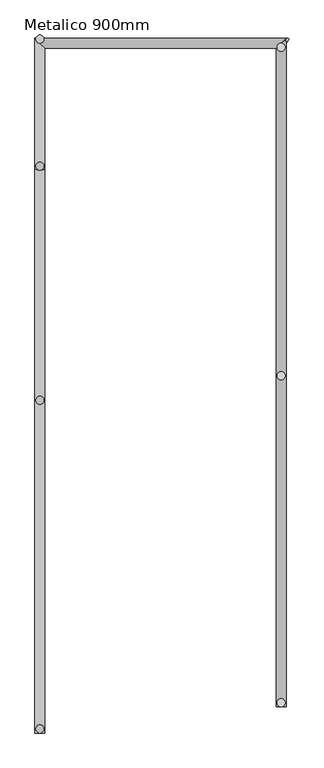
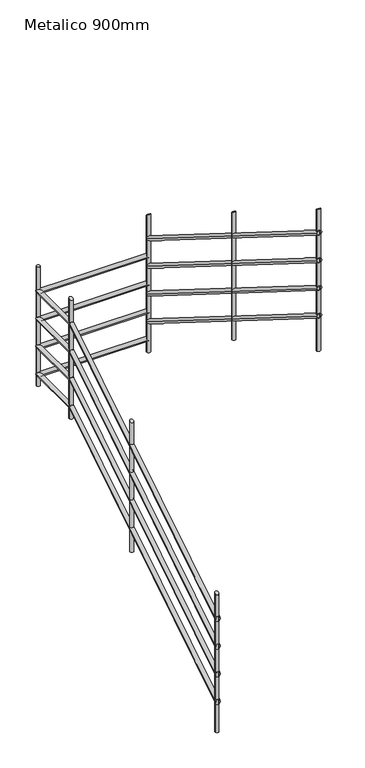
"""IFC4 building model written with IfcOpenShell, lengths in millimetres: railing geometry, Metalico 900mm."""

from ifc_helpers import new_model, si_unit, point, frame, frame_2d, origin, place, context, project, spatial, circle_curve, ellipse_curve, trimmed, segment, composite_curve, outline, extrude, source, transform, mapped, element, save
from ifc_brep_helpers import plane_surface, cylinder_surface, advanced_brep


def metalico_900mm_db347fa3(model_context):
    return source(origin(), model_context, "Body", "SolidModel", [
        advanced_brep(
        [(9989.9958537, 8929.9988127, 6089.1198035), (10019.9958537, 8929.9988127, 6089.1198035), (9989.9958537, 10659.8455144, 7172.3333333), (10019.9958537, 10659.8455144, 7172.3333333), (10765.669886, 11059.9988127, 7172.3333333), (10740.2435505, 11029.9988127, 7172.3333333), (10019.9958537, 11029.9988127, 7172.3333333), (9989.9958537, 11059.9988127, 7172.3333333)],
        [
            (0, 1, ellipse_curve(frame((10004.9958537, 8929.9988127, 6089.1198035), z_axis=(0.0, -1.0, 0.0), x_axis=(0.0, 0.0, -1.0)), 17.6981854, 15.0)),
            (1, 0, ellipse_curve(frame((10004.9958537, 8929.9988127, 6089.1198035), z_axis=(0.0, -1.0, 0.0), x_axis=(0.0, 0.0, -1.0)), 17.6981854, 15.0)),
            (0, 2),
            (2, 3, ellipse_curve(frame((10004.9958537, 10659.8455144, 7172.3333333), z_axis=(0.0, -0.9611307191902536, -0.27609371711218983), x_axis=(0.0, 0.2760937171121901, -0.9611307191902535)), 15.606618, 15.0)),
            (3, 1),
            (3, 2, ellipse_curve(frame((10004.9958537, 10659.8455144, 7172.3333333), z_axis=(0.0, -0.9611307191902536, -0.27609371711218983), x_axis=(0.0, 0.2760937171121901, -0.9611307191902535)), 15.606618, 15.0)),
            (4, 5, ellipse_curve(frame((10752.9567183, 11044.9988127, 7172.3333333), z_axis=(0.7071067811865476, -0.5993044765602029, 0.3752787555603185), x_axis=(-0.7071067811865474, -0.5993044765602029, 0.37527875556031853)), 21.2132034, 15.0)),
            (5, 4, ellipse_curve(frame((10752.9567183, 11044.9988127, 7172.3333333), z_axis=(0.7071067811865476, -0.5993044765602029, 0.3752787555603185), x_axis=(-0.7071067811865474, -0.5993044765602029, 0.37527875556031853)), 21.2132034, 15.0)),
            (6, 7, ellipse_curve(frame((10004.9958537, 11044.9988127, 7172.3333333), z_axis=(0.7071067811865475, 0.7071067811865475, 0.0), x_axis=(-0.7071067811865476, 0.7071067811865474, 0.0)), 21.2132034, 15.0)),
            (7, 4),
            (5, 6),
            (7, 6, ellipse_curve(frame((10004.9958537, 11044.9988127, 7172.3333333), z_axis=(0.7071067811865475, 0.7071067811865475, 0.0), x_axis=(-0.7071067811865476, 0.7071067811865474, 0.0)), 21.2132034, 15.0)),
            (2, 7),
            (6, 3),
        ],
        [
            plane_surface(frame((10004.9958537, 8929.9988127, 6106.8179888), z_axis=(0.0, -1.0, 0.0), x_axis=(0.0, 0.0, 1.0))),
            cylinder_surface(frame((10004.9958537, 8937.9596773, 6094.104821), z_axis=(0.0, -0.8475445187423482, -0.5307243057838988), x_axis=(1.0, 0.0, 0.0)), 15.0),
            plane_surface(frame((10744.9958537, 11044.9988127, 7187.3333333), z_axis=(0.7071067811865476, -0.5993044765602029, 0.3752787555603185), x_axis=(0.7071067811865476, 0.5993044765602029, -0.37527875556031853))),
            cylinder_surface(frame((10004.9958537, 11044.9988127, 7172.3333333), z_axis=(-1.0, 0.0, 0.0), x_axis=(0.0, -1.0, 0.0)), 15.0),
            cylinder_surface(frame((10004.9958537, 10655.5366253, 7172.3333333), z_axis=(0.0, -1.0, 0.0), x_axis=(1.0, 0.0, 0.0)), 15.0),
        ],
        [
            (0, [[1, 2]]),
            (1, [[-1, 3, 4, 5]]),
            (1, [[-2, -5, 6, -3]]),
            (2, [[7, 8]]),
            (3, [[9, 10, -8, 11]]),
            (3, [[12, -11, -7, -10]]),
            (4, [[-4, 13, -9, 14]]),
            (4, [[-6, -14, -12, -13]]),
        ],
    ),
        advanced_brep(
        [(10759.9958537, 11049.7511159, 7295.0283486), (10729.9958537, 11024.3247804, 7310.9500778), (10759.9958537, 9009.9988127, 8572.3018146), (10729.9958537, 9009.9988127, 8572.3018146)],
        [
            (0, 1, ellipse_curve(frame((10744.9958537, 11037.0379481, 7302.9892132), z_axis=(-0.7071067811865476, 0.5993044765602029, -0.3752787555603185), x_axis=(0.7071067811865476, 0.5993044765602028, -0.3752787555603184)), 21.2132034, 15.0)),
            (1, 0, ellipse_curve(frame((10744.9958537, 11037.0379481, 7302.9892132), z_axis=(-0.7071067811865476, 0.5993044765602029, -0.3752787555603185), x_axis=(0.7071067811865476, 0.5993044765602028, -0.3752787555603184)), 21.2132034, 15.0)),
            (2, 3, ellipse_curve(frame((10744.9958537, 9009.9988127, 8572.3018146), z_axis=(0.0, -1.0, 0.0), x_axis=(0.0, 0.0, -1.0)), 17.6981854, 15.0)),
            (3, 2, ellipse_curve(frame((10744.9958537, 9009.9988127, 8572.3018146), z_axis=(0.0, -1.0, 0.0), x_axis=(0.0, 0.0, -1.0)), 17.6981854, 15.0)),
            (0, 2),
            (3, 1),
        ],
        [
            plane_surface(frame((10744.9958537, 11044.9988127, 7315.702381), z_axis=(-0.7071067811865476, 0.5993044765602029, -0.3752787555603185), x_axis=(0.7071067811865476, 0.5993044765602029, -0.37527875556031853))),
            plane_surface(frame((10744.9958537, 9009.9988127, 8590.0), z_axis=(0.0, -1.0, 0.0), x_axis=(0.0, 0.0, -1.0))),
            cylinder_surface(frame((10744.9958537, 11037.0379481, 7302.9892132), z_axis=(0.0, 0.8475445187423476, -0.5307243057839), x_axis=(-1.0, 0.0, 0.0)), 15.0),
        ],
        [
            (0, [[1, 2]]),
            (1, [[3, 4]]),
            (2, [[-1, 5, -4, 6]]),
            (2, [[-2, -6, -3, -5]]),
        ],
    ),
        advanced_brep(
        [(9989.9958537, 8929.9988127, 5889.1198035), (10019.9958537, 8929.9988127, 5889.1198035), (9989.9958537, 10659.8455144, 6972.3333333), (10019.9958537, 10659.8455144, 6972.3333333), (10765.669886, 11059.9988127, 6972.3333333), (10740.2435505, 11029.9988127, 6972.3333333), (10019.9958537, 11029.9988127, 6972.3333333), (9989.9958537, 11059.9988127, 6972.3333333)],
        [
            (0, 1, ellipse_curve(frame((10004.9958537, 8929.9988127, 5889.1198035), z_axis=(0.0, -1.0, 0.0), x_axis=(0.0, 0.0, -1.0)), 17.6981854, 15.0)),
            (1, 0, ellipse_curve(frame((10004.9958537, 8929.9988127, 5889.1198035), z_axis=(0.0, -1.0, 0.0), x_axis=(0.0, 0.0, -1.0)), 17.6981854, 15.0)),
            (0, 2),
            (2, 3, ellipse_curve(frame((10004.9958537, 10659.8455144, 6972.3333333), z_axis=(0.0, -0.9611307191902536, -0.27609371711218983), x_axis=(0.0, 0.2760937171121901, -0.9611307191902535)), 15.606618, 15.0)),
            (3, 1),
            (3, 2, ellipse_curve(frame((10004.9958537, 10659.8455144, 6972.3333333), z_axis=(0.0, -0.9611307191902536, -0.27609371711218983), x_axis=(0.0, 0.2760937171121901, -0.9611307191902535)), 15.606618, 15.0)),
            (4, 5, ellipse_curve(frame((10752.9567183, 11044.9988127, 6972.3333333), z_axis=(0.7071067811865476, -0.5993044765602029, 0.3752787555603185), x_axis=(-0.7071067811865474, -0.5993044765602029, 0.37527875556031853)), 21.2132034, 15.0)),
            (5, 4, ellipse_curve(frame((10752.9567183, 11044.9988127, 6972.3333333), z_axis=(0.7071067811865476, -0.5993044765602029, 0.3752787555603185), x_axis=(-0.7071067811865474, -0.5993044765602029, 0.37527875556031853)), 21.2132034, 15.0)),
            (6, 7, ellipse_curve(frame((10004.9958537, 11044.9988127, 6972.3333333), z_axis=(0.7071067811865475, 0.7071067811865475, 0.0), x_axis=(-0.7071067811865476, 0.7071067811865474, 0.0)), 21.2132034, 15.0)),
            (7, 4),
            (5, 6),
            (7, 6, ellipse_curve(frame((10004.9958537, 11044.9988127, 6972.3333333), z_axis=(0.7071067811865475, 0.7071067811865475, 0.0), x_axis=(-0.7071067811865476, 0.7071067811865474, 0.0)), 21.2132034, 15.0)),
            (2, 7),
            (6, 3),
        ],
        [
            plane_surface(frame((10004.9958537, 8929.9988127, 5906.8179888), z_axis=(0.0, -1.0, 0.0), x_axis=(0.0, 0.0, 1.0))),
            cylinder_surface(frame((10004.9958537, 8937.9596773, 5894.104821), z_axis=(0.0, -0.8475445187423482, -0.5307243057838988), x_axis=(1.0, 0.0, 0.0)), 15.0),
            plane_surface(frame((10744.9958537, 11044.9988127, 6987.3333333), z_axis=(0.7071067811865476, -0.5993044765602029, 0.3752787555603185), x_axis=(0.7071067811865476, 0.5993044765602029, -0.37527875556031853))),
            cylinder_surface(frame((10004.9958537, 11044.9988127, 6972.3333333), z_axis=(-1.0, 0.0, 0.0), x_axis=(0.0, -1.0, 0.0)), 15.0),
            cylinder_surface(frame((10004.9958537, 10655.5366253, 6972.3333333), z_axis=(0.0, -1.0, 0.0), x_axis=(1.0, 0.0, 0.0)), 15.0),
        ],
        [
            (0, [[1, 2]]),
            (1, [[-1, 3, 4, 5]]),
            (1, [[-2, -5, 6, -3]]),
            (2, [[7, 8]]),
            (3, [[9, 10, -8, 11]]),
            (3, [[12, -11, -7, -10]]),
            (4, [[-4, 13, -9, 14]]),
            (4, [[-6, -14, -12, -13]]),
        ],
    ),
        advanced_brep(
        [(10759.9958537, 11049.7511159, 7095.0283486), (10729.9958537, 11024.3247804, 7110.9500778), (10759.9958537, 9009.9988127, 8372.3018146), (10729.9958537, 9009.9988127, 8372.3018146)],
        [
            (0, 1, ellipse_curve(frame((10744.9958537, 11037.0379481, 7102.9892132), z_axis=(-0.7071067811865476, 0.5993044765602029, -0.3752787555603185), x_axis=(0.7071067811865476, 0.5993044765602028, -0.3752787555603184)), 21.2132034, 15.0)),
            (1, 0, ellipse_curve(frame((10744.9958537, 11037.0379481, 7102.9892132), z_axis=(-0.7071067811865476, 0.5993044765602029, -0.3752787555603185), x_axis=(0.7071067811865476, 0.5993044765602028, -0.3752787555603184)), 21.2132034, 15.0)),
            (2, 3, ellipse_curve(frame((10744.9958537, 9009.9988127, 8372.3018146), z_axis=(0.0, -1.0, 0.0), x_axis=(0.0, 0.0, -1.0)), 17.6981854, 15.0)),
            (3, 2, ellipse_curve(frame((10744.9958537, 9009.9988127, 8372.3018146), z_axis=(0.0, -1.0, 0.0), x_axis=(0.0, 0.0, -1.0)), 17.6981854, 15.0)),
            (0, 2),
            (3, 1),
        ],
        [
            plane_surface(frame((10744.9958537, 11044.9988127, 7115.702381), z_axis=(-0.7071067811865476, 0.5993044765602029, -0.3752787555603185), x_axis=(0.7071067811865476, 0.5993044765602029, -0.37527875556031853))),
            plane_surface(frame((10744.9958537, 9009.9988127, 8390.0), z_axis=(0.0, -1.0, 0.0), x_axis=(0.0, 0.0, -1.0))),
            cylinder_surface(frame((10744.9958537, 11037.0379481, 7102.9892132), z_axis=(0.0, 0.8475445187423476, -0.5307243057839), x_axis=(-1.0, 0.0, 0.0)), 15.0),
        ],
        [
            (0, [[1, 2]]),
            (1, [[3, 4]]),
            (2, [[-1, 5, -4, 6]]),
            (2, [[-2, -6, -3, -5]]),
        ],
    ),
        advanced_brep(
        [(9989.9958537, 8929.9988127, 5689.1198035), (10019.9958537, 8929.9988127, 5689.1198035), (9989.9958537, 10659.8455144, 6772.3333333), (10019.9958537, 10659.8455144, 6772.3333333), (10765.669886, 11059.9988127, 6772.3333333), (10740.2435505, 11029.9988127, 6772.3333333), (10019.9958537, 11029.9988127, 6772.3333333), (9989.9958537, 11059.9988127, 6772.3333333)],
        [
            (0, 1, ellipse_curve(frame((10004.9958537, 8929.9988127, 5689.1198035), z_axis=(0.0, -1.0, 0.0), x_axis=(0.0, 0.0, -1.0)), 17.6981854, 15.0)),
            (1, 0, ellipse_curve(frame((10004.9958537, 8929.9988127, 5689.1198035), z_axis=(0.0, -1.0, 0.0), x_axis=(0.0, 0.0, -1.0)), 17.6981854, 15.0)),
            (0, 2),
            (2, 3, ellipse_curve(frame((10004.9958537, 10659.8455144, 6772.3333333), z_axis=(0.0, -0.9611307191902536, -0.27609371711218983), x_axis=(0.0, 0.2760937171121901, -0.9611307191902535)), 15.606618, 15.0)),
            (3, 1),
            (3, 2, ellipse_curve(frame((10004.9958537, 10659.8455144, 6772.3333333), z_axis=(0.0, -0.9611307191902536, -0.27609371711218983), x_axis=(0.0, 0.2760937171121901, -0.9611307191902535)), 15.606618, 15.0)),
            (4, 5, ellipse_curve(frame((10752.9567183, 11044.9988127, 6772.3333333), z_axis=(0.7071067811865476, -0.5993044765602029, 0.3752787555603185), x_axis=(-0.7071067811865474, -0.5993044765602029, 0.37527875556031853)), 21.2132034, 15.0)),
            (5, 4, ellipse_curve(frame((10752.9567183, 11044.9988127, 6772.3333333), z_axis=(0.7071067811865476, -0.5993044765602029, 0.3752787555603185), x_axis=(-0.7071067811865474, -0.5993044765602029, 0.37527875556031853)), 21.2132034, 15.0)),
            (6, 7, ellipse_curve(frame((10004.9958537, 11044.9988127, 6772.3333333), z_axis=(0.7071067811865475, 0.7071067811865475, 0.0), x_axis=(-0.7071067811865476, 0.7071067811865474, 0.0)), 21.2132034, 15.0)),
            (7, 4),
            (5, 6),
            (7, 6, ellipse_curve(frame((10004.9958537, 11044.9988127, 6772.3333333), z_axis=(0.7071067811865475, 0.7071067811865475, 0.0), x_axis=(-0.7071067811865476, 0.7071067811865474, 0.0)), 21.2132034, 15.0)),
            (2, 7),
            (6, 3),
        ],
        [
            plane_surface(frame((10004.9958537, 8929.9988127, 5706.8179888), z_axis=(0.0, -1.0, 0.0), x_axis=(0.0, 0.0, 1.0))),
            cylinder_surface(frame((10004.9958537, 8937.9596773, 5694.104821), z_axis=(0.0, -0.8475445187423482, -0.5307243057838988), x_axis=(1.0, 0.0, 0.0)), 15.0),
            plane_surface(frame((10744.9958537, 11044.9988127, 6787.3333333), z_axis=(0.7071067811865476, -0.5993044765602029, 0.3752787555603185), x_axis=(0.7071067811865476, 0.5993044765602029, -0.37527875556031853))),
            cylinder_surface(frame((10004.9958537, 11044.9988127, 6772.3333333), z_axis=(-1.0, 0.0, 0.0), x_axis=(0.0, -1.0, 0.0)), 15.0),
            cylinder_surface(frame((10004.9958537, 10655.5366253, 6772.3333333), z_axis=(0.0, -1.0, 0.0), x_axis=(1.0, 0.0, 0.0)), 15.0),
        ],
        [
            (0, [[1, 2]]),
            (1, [[-1, 3, 4, 5]]),
            (1, [[-2, -5, 6, -3]]),
            (2, [[7, 8]]),
            (3, [[9, 10, -8, 11]]),
            (3, [[12, -11, -7, -10]]),
            (4, [[-4, 13, -9, 14]]),
            (4, [[-6, -14, -12, -13]]),
        ],
    ),
        advanced_brep(
        [(10759.9958537, 11049.7511159, 6895.0283486), (10729.9958537, 11024.3247804, 6910.9500778), (10759.9958537, 9009.9988127, 8172.3018146), (10729.9958537, 9009.9988127, 8172.3018146)],
        [
            (0, 1, ellipse_curve(frame((10744.9958537, 11037.0379481, 6902.9892132), z_axis=(-0.7071067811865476, 0.5993044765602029, -0.3752787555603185), x_axis=(0.7071067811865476, 0.5993044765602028, -0.3752787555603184)), 21.2132034, 15.0)),
            (1, 0, ellipse_curve(frame((10744.9958537, 11037.0379481, 6902.9892132), z_axis=(-0.7071067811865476, 0.5993044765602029, -0.3752787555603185), x_axis=(0.7071067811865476, 0.5993044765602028, -0.3752787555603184)), 21.2132034, 15.0)),
            (2, 3, ellipse_curve(frame((10744.9958537, 9009.9988127, 8172.3018146), z_axis=(0.0, -1.0, 0.0), x_axis=(0.0, 0.0, -1.0)), 17.6981854, 15.0)),
            (3, 2, ellipse_curve(frame((10744.9958537, 9009.9988127, 8172.3018146), z_axis=(0.0, -1.0, 0.0), x_axis=(0.0, 0.0, -1.0)), 17.6981854, 15.0)),
            (0, 2),
            (3, 1),
        ],
        [
            plane_surface(frame((10744.9958537, 11044.9988127, 6915.702381), z_axis=(-0.7071067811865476, 0.5993044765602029, -0.3752787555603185), x_axis=(0.7071067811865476, 0.5993044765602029, -0.37527875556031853))),
            plane_surface(frame((10744.9958537, 9009.9988127, 8190.0), z_axis=(0.0, -1.0, 0.0), x_axis=(0.0, 0.0, -1.0))),
            cylinder_surface(frame((10744.9958537, 11037.0379481, 6902.9892132), z_axis=(0.0, 0.8475445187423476, -0.5307243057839), x_axis=(-1.0, 0.0, 0.0)), 15.0),
        ],
        [
            (0, [[1, 2]]),
            (1, [[3, 4]]),
            (2, [[-1, 5, -4, 6]]),
            (2, [[-2, -6, -3, -5]]),
        ],
    ),
        advanced_brep(
        [(9989.9958537, 8929.9988127, 5489.1198035), (10019.9958537, 8929.9988127, 5489.1198035), (9989.9958537, 10659.8455144, 6572.3333333), (10019.9958537, 10659.8455144, 6572.3333333), (10765.669886, 11059.9988127, 6572.3333333), (10740.2435505, 11029.9988127, 6572.3333333), (10019.9958537, 11029.9988127, 6572.3333333), (9989.9958537, 11059.9988127, 6572.3333333)],
        [
            (0, 1, ellipse_curve(frame((10004.9958537, 8929.9988127, 5489.1198035), z_axis=(0.0, -1.0, 0.0), x_axis=(0.0, 0.0, -1.0)), 17.6981854, 15.0)),
            (1, 0, ellipse_curve(frame((10004.9958537, 8929.9988127, 5489.1198035), z_axis=(0.0, -1.0, 0.0), x_axis=(0.0, 0.0, -1.0)), 17.6981854, 15.0)),
            (0, 2),
            (2, 3, ellipse_curve(frame((10004.9958537, 10659.8455144, 6572.3333333), z_axis=(0.0, -0.9611307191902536, -0.27609371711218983), x_axis=(0.0, 0.2760937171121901, -0.9611307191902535)), 15.606618, 15.0)),
            (3, 1),
            (3, 2, ellipse_curve(frame((10004.9958537, 10659.8455144, 6572.3333333), z_axis=(0.0, -0.9611307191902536, -0.27609371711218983), x_axis=(0.0, 0.2760937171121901, -0.9611307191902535)), 15.606618, 15.0)),
            (4, 5, ellipse_curve(frame((10752.9567183, 11044.9988127, 6572.3333333), z_axis=(0.7071067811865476, -0.5993044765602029, 0.3752787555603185), x_axis=(-0.7071067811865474, -0.5993044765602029, 0.37527875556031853)), 21.2132034, 15.0)),
            (5, 4, ellipse_curve(frame((10752.9567183, 11044.9988127, 6572.3333333), z_axis=(0.7071067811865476, -0.5993044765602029, 0.3752787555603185), x_axis=(-0.7071067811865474, -0.5993044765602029, 0.37527875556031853)), 21.2132034, 15.0)),
            (6, 7, ellipse_curve(frame((10004.9958537, 11044.9988127, 6572.3333333), z_axis=(0.7071067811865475, 0.7071067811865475, 0.0), x_axis=(-0.7071067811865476, 0.7071067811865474, 0.0)), 21.2132034, 15.0)),
            (7, 4),
            (5, 6),
            (7, 6, ellipse_curve(frame((10004.9958537, 11044.9988127, 6572.3333333), z_axis=(0.7071067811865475, 0.7071067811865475, 0.0), x_axis=(-0.7071067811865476, 0.7071067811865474, 0.0)), 21.2132034, 15.0)),
            (2, 7),
            (6, 3),
        ],
        [
            plane_surface(frame((10004.9958537, 8929.9988127, 5506.8179888), z_axis=(0.0, -1.0, 0.0), x_axis=(0.0, 0.0, 1.0))),
            cylinder_surface(frame((10004.9958537, 8937.9596773, 5494.104821), z_axis=(0.0, -0.8475445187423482, -0.5307243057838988), x_axis=(1.0, 0.0, 0.0)), 15.0),
            plane_surface(frame((10744.9958537, 11044.9988127, 6587.3333333), z_axis=(0.7071067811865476, -0.5993044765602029, 0.3752787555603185), x_axis=(0.7071067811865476, 0.5993044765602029, -0.37527875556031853))),
            cylinder_surface(frame((10004.9958537, 11044.9988127, 6572.3333333), z_axis=(-1.0, 0.0, 0.0), x_axis=(0.0, -1.0, 0.0)), 15.0),
            cylinder_surface(frame((10004.9958537, 10655.5366253, 6572.3333333), z_axis=(0.0, -1.0, 0.0), x_axis=(1.0, 0.0, 0.0)), 15.0),
        ],
        [
            (0, [[1, 2]]),
            (1, [[-1, 3, 4, 5]]),
            (1, [[-2, -5, 6, -3]]),
            (2, [[7, 8]]),
            (3, [[9, 10, -8, 11]]),
            (3, [[12, -11, -7, -10]]),
            (4, [[-4, 13, -9, 14]]),
            (4, [[-6, -14, -12, -13]]),
        ],
    ),
        advanced_brep(
        [(10759.9958537, 11049.7511159, 6695.0283486), (10729.9958537, 11024.3247804, 6710.9500778), (10759.9958537, 9009.9988127, 7972.3018146), (10729.9958537, 9009.9988127, 7972.3018146)],
        [
            (0, 1, ellipse_curve(frame((10744.9958537, 11037.0379481, 6702.9892132), z_axis=(-0.7071067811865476, 0.5993044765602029, -0.3752787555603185), x_axis=(0.7071067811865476, 0.5993044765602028, -0.3752787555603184)), 21.2132034, 15.0)),
            (1, 0, ellipse_curve(frame((10744.9958537, 11037.0379481, 6702.9892132), z_axis=(-0.7071067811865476, 0.5993044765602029, -0.3752787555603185), x_axis=(0.7071067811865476, 0.5993044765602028, -0.3752787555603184)), 21.2132034, 15.0)),
            (2, 3, ellipse_curve(frame((10744.9958537, 9009.9988127, 7972.3018146), z_axis=(0.0, -1.0, 0.0), x_axis=(0.0, 0.0, -1.0)), 17.6981854, 15.0)),
            (3, 2, ellipse_curve(frame((10744.9958537, 9009.9988127, 7972.3018146), z_axis=(0.0, -1.0, 0.0), x_axis=(0.0, 0.0, -1.0)), 17.6981854, 15.0)),
            (0, 2),
            (3, 1),
        ],
        [
            plane_surface(frame((10744.9958537, 11044.9988127, 6715.702381), z_axis=(-0.7071067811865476, 0.5993044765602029, -0.3752787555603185), x_axis=(0.7071067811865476, 0.5993044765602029, -0.37527875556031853))),
            plane_surface(frame((10744.9958537, 9009.9988127, 7990.0), z_axis=(0.0, -1.0, 0.0), x_axis=(0.0, 0.0, -1.0))),
            cylinder_surface(frame((10744.9958537, 11037.0379481, 6702.9892132), z_axis=(0.0, 0.8475445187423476, -0.5307243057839), x_axis=(-1.0, 0.0, 0.0)), 15.0),
        ],
        [
            (0, [[1, 2]]),
            (1, [[3, 4]]),
            (2, [[-1, 5, -4, 6]]),
            (2, [[-2, -6, -3, -5]]),
        ],
    ),
        advanced_brep(
        [(10732.4958537, 10024.9988127, 8107.2215057), (10732.4958537, 10024.9988127, 7188.6666667), (10757.4958537, 10024.9988127, 7188.6666667), (10757.4958537, 10024.9988127, 8107.2215057)],
        [
            (0, 1),
            (1, 2, circle_curve(frame((10744.9958537, 10024.9988127, 7188.6666667), z_axis=(0.0, 0.0, 1.0), x_axis=(1.0, 0.0, 0.0)), 12.5)),
            (2, 3),
            (3, 0, ellipse_curve(frame((10744.9958537, 10024.9988127, 8107.2215057), z_axis=(0.0, -0.5307243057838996, -0.8475445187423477), x_axis=(0.0, -0.8475445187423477, 0.5307243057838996)), 14.7484878, 12.5)),
            (0, 3, ellipse_curve(frame((10744.9958537, 10024.9988127, 8107.2215057), z_axis=(0.0, -0.5307243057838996, -0.8475445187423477), x_axis=(0.0, -0.8475445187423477, 0.5307243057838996)), 14.7484878, 12.5)),
            (2, 1, circle_curve(frame((10744.9958537, 10024.9988127, 7188.6666667), z_axis=(0.0, 0.0, 1.0), x_axis=(1.0, 0.0, 0.0)), 12.5)),
        ],
        [
            cylinder_surface(frame((10744.9958537, 10024.9988127, 7088.6666667), z_axis=(0.0, 0.0, 1.0), x_axis=(1.0, 0.0, 0.0)), 12.5),
            plane_surface(frame((10769.9958537, 9999.9988127, 8122.8762676), z_axis=(0.0, 0.5307243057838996, 0.8475445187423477), x_axis=(-1.0, 0.0, 0.0))),
            plane_surface(frame((10769.9958537, 10049.9988127, 7188.6666667), z_axis=(0.0, 0.0, -1.0), x_axis=(-1.0, 0.0, 0.0))),
        ],
        [
            (0, [[1, 2, 3, 4]]),
            (0, [[-1, 5, -3, 6]]),
            (1, [[-4, -5]]),
            (2, [[-2, -6]]),
        ],
    ),
        advanced_brep(
        [(10732.4958537, 10024.9988127, 8107.2215057), (10732.4958537, 10024.9988127, 7188.6666667), (10757.4958537, 10024.9988127, 7188.6666667), (10757.4958537, 10024.9988127, 8107.2215057)],
        [
            (0, 1),
            (1, 2, circle_curve(frame((10744.9958537, 10024.9988127, 7188.6666667), z_axis=(0.0, 0.0, 1.0), x_axis=(1.0, 0.0, 0.0)), 12.5)),
            (2, 3),
            (3, 0, ellipse_curve(frame((10744.9958537, 10024.9988127, 8107.2215057), z_axis=(0.0, -0.5307243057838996, -0.8475445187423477), x_axis=(0.0, -0.8475445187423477, 0.5307243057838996)), 14.7484878, 12.5)),
            (0, 3, ellipse_curve(frame((10744.9958537, 10024.9988127, 8107.2215057), z_axis=(0.0, -0.5307243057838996, -0.8475445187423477), x_axis=(0.0, -0.8475445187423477, 0.5307243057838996)), 14.7484878, 12.5)),
            (2, 1, circle_curve(frame((10744.9958537, 10024.9988127, 7188.6666667), z_axis=(0.0, 0.0, 1.0), x_axis=(1.0, 0.0, 0.0)), 12.5)),
        ],
        [
            cylinder_surface(frame((10744.9958537, 10024.9988127, 7088.6666667), z_axis=(0.0, 0.0, 1.0), x_axis=(1.0, 0.0, 0.0)), 12.5),
            plane_surface(frame((10769.9958537, 9999.9988127, 8122.8762676), z_axis=(0.0, 0.5307243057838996, 0.8475445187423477), x_axis=(-1.0, 0.0, 0.0))),
            plane_surface(frame((10769.9958537, 10049.9988127, 7188.6666667), z_axis=(0.0, 0.0, -1.0), x_axis=(-1.0, 0.0, 0.0))),
        ],
        [
            (0, [[1, 2, 3, 4]]),
            (0, [[-1, 5, -3, 6]]),
            (1, [[-4, -5]]),
            (2, [[-2, -6]]),
        ],
    ),
        advanced_brep(
        [(10017.4958537, 9949.9988127, 6898.3371136), (10017.4958537, 9949.9988127, 5961.3333333), (9992.4958537, 9949.9988127, 5961.3333333), (9992.4958537, 9949.9988127, 6898.3371136)],
        [
            (0, 1),
            (1, 2, circle_curve(frame((10004.9958537, 9949.9988127, 5961.3333333), z_axis=(0.0, 0.0, 1.0), x_axis=(-1.0, 0.0, 0.0)), 12.5)),
            (2, 3),
            (3, 0, ellipse_curve(frame((10004.9958537, 9949.9988127, 6898.3371136), z_axis=(0.0, 0.530724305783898, -0.8475445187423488), x_axis=(0.0, 0.8475445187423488, 0.5307243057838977)), 14.7484878, 12.5)),
            (0, 3, ellipse_curve(frame((10004.9958537, 9949.9988127, 6898.3371136), z_axis=(0.0, 0.530724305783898, -0.8475445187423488), x_axis=(0.0, 0.8475445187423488, 0.5307243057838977)), 14.7484878, 12.5)),
            (2, 1, circle_curve(frame((10004.9958537, 9949.9988127, 5961.3333333), z_axis=(0.0, 0.0, 1.0), x_axis=(-1.0, 0.0, 0.0)), 12.5)),
        ],
        [
            cylinder_surface(frame((10004.9958537, 9949.9988127, 5861.3333333), z_axis=(0.0, 0.0, 1.0), x_axis=(-1.0, 0.0, 0.0)), 12.5),
            plane_surface(frame((9979.9958537, 9974.9988127, 6913.9918755), z_axis=(0.0, -0.530724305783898, 0.8475445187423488), x_axis=(1.0, 0.0, 0.0))),
            plane_surface(frame((9979.9958537, 9924.9988127, 5961.3333333), z_axis=(0.0, 0.0, -1.0), x_axis=(1.0, 0.0, 0.0))),
        ],
        [
            (0, [[1, 2, 3, 4]]),
            (0, [[-1, 5, -3, 6]]),
            (1, [[-4, -5]]),
            (2, [[-2, -6]]),
        ],
    ),
        advanced_brep(
        [(10017.4958537, 9949.9988127, 6898.3371136), (10017.4958537, 9949.9988127, 5961.3333333), (9992.4958537, 9949.9988127, 5961.3333333), (9992.4958537, 9949.9988127, 6898.3371136)],
        [
            (0, 1),
            (1, 2, circle_curve(frame((10004.9958537, 9949.9988127, 5961.3333333), z_axis=(0.0, 0.0, 1.0), x_axis=(-1.0, 0.0, 0.0)), 12.5)),
            (2, 3),
            (3, 0, ellipse_curve(frame((10004.9958537, 9949.9988127, 6898.3371136), z_axis=(0.0, 0.530724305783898, -0.8475445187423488), x_axis=(0.0, 0.8475445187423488, 0.5307243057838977)), 14.7484878, 12.5)),
            (0, 3, ellipse_curve(frame((10004.9958537, 9949.9988127, 6898.3371136), z_axis=(0.0, 0.530724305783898, -0.8475445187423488), x_axis=(0.0, 0.8475445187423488, 0.5307243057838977)), 14.7484878, 12.5)),
            (2, 1, circle_curve(frame((10004.9958537, 9949.9988127, 5961.3333333), z_axis=(0.0, 0.0, 1.0), x_axis=(-1.0, 0.0, 0.0)), 12.5)),
        ],
        [
            cylinder_surface(frame((10004.9958537, 9949.9988127, 5861.3333333), z_axis=(0.0, 0.0, 1.0), x_axis=(-1.0, 0.0, 0.0)), 12.5),
            plane_surface(frame((9979.9958537, 9974.9988127, 6913.9918755), z_axis=(0.0, -0.530724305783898, 0.8475445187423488), x_axis=(1.0, 0.0, 0.0))),
            plane_surface(frame((9979.9958537, 9924.9988127, 5961.3333333), z_axis=(0.0, 0.0, -1.0), x_axis=(1.0, 0.0, 0.0))),
        ],
        [
            (0, [[1, 2, 3, 4]]),
            (0, [[-1, 5, -3, 6]]),
            (1, [[-4, -5]]),
            (2, [[-2, -6]]),
        ],
    ),
        advanced_brep(
        [(10732.4958537, 11032.4988127, 7476.3346009), (10732.4958537, 11032.4988127, 6487.3333333), (10757.4958537, 11032.4988127, 6487.3333333), (10757.4958537, 11032.4988127, 7476.3346009)],
        [
            (0, 1),
            (1, 2, circle_curve(frame((10744.9958537, 11032.4988127, 6487.3333333), z_axis=(0.0, 0.0, 1.0), x_axis=(1.0, 0.0, 0.0)), 12.5)),
            (2, 3),
            (3, 0, ellipse_curve(frame((10744.9958537, 11032.4988127, 7476.3346009), z_axis=(0.0, -0.530724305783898, -0.8475445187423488), x_axis=(0.0, -0.8475445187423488, 0.5307243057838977)), 14.7484878, 12.5)),
            (0, 3, ellipse_curve(frame((10744.9958537, 11032.4988127, 7476.3346009), z_axis=(0.0, -0.530724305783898, -0.8475445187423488), x_axis=(0.0, -0.8475445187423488, 0.5307243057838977)), 14.7484878, 12.5)),
            (2, 1, circle_curve(frame((10744.9958537, 11032.4988127, 6487.3333333), z_axis=(0.0, 0.0, 1.0), x_axis=(1.0, 0.0, 0.0)), 12.5)),
        ],
        [
            cylinder_surface(frame((10744.9958537, 11032.4988127, 6387.3333333), z_axis=(0.0, 0.0, 1.0), x_axis=(1.0, 0.0, 0.0)), 12.5),
            plane_surface(frame((10769.9958537, 11007.4988127, 7491.9893628), z_axis=(0.0, 0.530724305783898, 0.8475445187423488), x_axis=(-1.0, 0.0, 0.0))),
            plane_surface(frame((10769.9958537, 11057.4988127, 6487.3333333), z_axis=(0.0, 0.0, -1.0), x_axis=(-1.0, 0.0, 0.0))),
        ],
        [
            (0, [[1, 2, 3, 4]]),
            (0, [[-1, 5, -3, 6]]),
            (1, [[-4, -5]]),
            (2, [[-2, -6]]),
        ],
    ),
        extrude(outline(composite_curve([segment(trimmed(circle_curve(frame_2d((10004.9958537, 11057.4988127)), 12.5), [point((9992.4958537, 11057.4988127))], [point((10017.4958537, 11057.4988127))], False, "CARTESIAN"), True, "CONTINUOUS"), segment(trimmed(circle_curve(frame_2d((10004.9958537, 11057.4988127)), 12.5), [point((10017.4958537, 11057.4988127))], [point((9992.4958537, 11057.4988127))], False, "CARTESIAN"), True, "CONTINUOUS")], self_intersect=False)), frame((0.0, 0.0, 6487.3333333), z_axis=(0.0, 0.0, 1.0), x_axis=(1.0, 0.0, 0.0)), (0.0, 0.0, 1.0), 860.0),
        advanced_brep(
        [(10017.4958537, 10668.0366253, 7347.9655533), (10017.4958537, 10668.0366253, 6487.3333333), (9992.4958537, 10668.0366253, 6487.3333333), (9992.4958537, 10668.0366253, 7347.9655533)],
        [
            (0, 1),
            (1, 2, circle_curve(frame((10004.9958537, 10668.0366253, 6487.3333333), z_axis=(0.0, 0.0, 1.0), x_axis=(-1.0, 0.0, 0.0)), 12.5)),
            (2, 3),
            (3, 0, ellipse_curve(frame((10004.9958537, 10668.0366253, 7347.9655533), z_axis=(0.0, 0.5307243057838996, -0.8475445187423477), x_axis=(0.0, 0.8475445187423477, 0.5307243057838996)), 14.7484878, 12.5)),
            (0, 3, ellipse_curve(frame((10004.9958537, 10668.0366253, 7347.9655533), z_axis=(0.0, 0.5307243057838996, -0.8475445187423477), x_axis=(0.0, 0.8475445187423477, 0.5307243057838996)), 14.7484878, 12.5)),
            (2, 1, circle_curve(frame((10004.9958537, 10668.0366253, 6487.3333333), z_axis=(0.0, 0.0, 1.0), x_axis=(-1.0, 0.0, 0.0)), 12.5)),
        ],
        [
            cylinder_surface(frame((10004.9958537, 10668.0366253, 6387.3333333), z_axis=(0.0, 0.0, 1.0), x_axis=(-1.0, 0.0, 0.0)), 12.5),
            plane_surface(frame((9979.9958537, 10693.0366253, 7363.6203152), z_axis=(0.0, -0.5307243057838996, 0.8475445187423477), x_axis=(1.0, 0.0, 0.0))),
            plane_surface(frame((9979.9958537, 10643.0366253, 6487.3333333), z_axis=(0.0, 0.0, -1.0), x_axis=(1.0, 0.0, 0.0))),
        ],
        [
            (0, [[1, 2, 3, 4]]),
            (0, [[-1, 5, -3, 6]]),
            (1, [[-4, -5]]),
            (2, [[-2, -6]]),
        ],
    ),
        advanced_brep(
        [(10732.4958537, 9022.4988127, 8734.9774581), (10732.4958537, 9022.4988127, 7714.6666667), (10757.4958537, 9022.4988127, 7714.6666667), (10757.4958537, 9022.4988127, 8734.9774581)],
        [
            (0, 1),
            (1, 2, circle_curve(frame((10744.9958537, 9022.4988127, 7714.6666667), z_axis=(0.0, 0.0, 1.0), x_axis=(1.0, 0.0, 0.0)), 12.5)),
            (2, 3),
            (3, 0, ellipse_curve(frame((10744.9958537, 9022.4988127, 8734.9774581), z_axis=(0.0, -0.530724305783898, -0.8475445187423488), x_axis=(0.0, -0.8475445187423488, 0.5307243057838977)), 14.7484878, 12.5)),
            (0, 3, ellipse_curve(frame((10744.9958537, 9022.4988127, 8734.9774581), z_axis=(0.0, -0.530724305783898, -0.8475445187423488), x_axis=(0.0, -0.8475445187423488, 0.5307243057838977)), 14.7484878, 12.5)),
            (2, 1, circle_curve(frame((10744.9958537, 9022.4988127, 7714.6666667), z_axis=(0.0, 0.0, 1.0), x_axis=(1.0, 0.0, 0.0)), 12.5)),
        ],
        [
            cylinder_surface(frame((10744.9958537, 9022.4988127, 7614.6666667), z_axis=(0.0, 0.0, 1.0), x_axis=(1.0, 0.0, 0.0)), 12.5),
            plane_surface(frame((10769.9958537, 8997.4988127, 8750.63222), z_axis=(0.0, 0.530724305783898, 0.8475445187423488), x_axis=(-1.0, 0.0, 0.0))),
            plane_surface(frame((10769.9958537, 9047.4988127, 7714.6666667), z_axis=(0.0, 0.0, -1.0), x_axis=(-1.0, 0.0, 0.0))),
        ],
        [
            (0, [[1, 2, 3, 4]]),
            (0, [[-1, 5, -3, 6]]),
            (1, [[-4, -5]]),
            (2, [[-2, -6]]),
        ],
    ),
        advanced_brep(
        [(10017.4958537, 8942.4988127, 6267.4502088), (10017.4958537, 8942.4988127, 5269.6453698), (9992.4958537, 8942.4988127, 5269.6453698), (9992.4958537, 8942.4988127, 6267.4502088)],
        [
            (0, 1),
            (1, 2, circle_curve(frame((10004.9958537, 8942.4988127, 5269.6453698), z_axis=(0.0, 0.0, 1.0), x_axis=(-1.0, 0.0, 0.0)), 12.5)),
            (2, 3),
            (3, 0, ellipse_curve(frame((10004.9958537, 8942.4988127, 6267.4502088), z_axis=(0.0, 0.530724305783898, -0.8475445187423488), x_axis=(0.0, 0.8475445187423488, 0.5307243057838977)), 14.7484878, 12.5)),
            (0, 3, ellipse_curve(frame((10004.9958537, 8942.4988127, 6267.4502088), z_axis=(0.0, 0.530724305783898, -0.8475445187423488), x_axis=(0.0, 0.8475445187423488, 0.5307243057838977)), 14.7484878, 12.5)),
            (2, 1, circle_curve(frame((10004.9958537, 8942.4988127, 5269.6453698), z_axis=(0.0, 0.0, 1.0), x_axis=(-1.0, 0.0, 0.0)), 12.5)),
        ],
        [
            cylinder_surface(frame((10004.9958537, 8942.4988127, 5169.6453698), z_axis=(0.0, 0.0, 1.0), x_axis=(-1.0, 0.0, 0.0)), 12.5),
            plane_surface(frame((9979.9958537, 8967.4988127, 6283.1049707), z_axis=(0.0, -0.530724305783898, 0.8475445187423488), x_axis=(1.0, 0.0, 0.0))),
            plane_surface(frame((9979.9958537, 8917.4988127, 5269.6453698), z_axis=(0.0, 0.0, -1.0), x_axis=(1.0, 0.0, 0.0))),
        ],
        [
            (0, [[1, 2, 3, 4]]),
            (0, [[-1, 5, -3, 6]]),
            (1, [[-4, -5]]),
            (2, [[-2, -6]]),
        ],
    ),
    ])


if __name__ == "__main__":
    model = new_model("IFC4")
    model_context = context("Model", 3, world=origin())
    ifc_project = project(units=[si_unit("LENGTHUNIT", "METRE", prefix="MILLI")], contexts=[model_context])
    site = spatial("IfcSite", under=ifc_project)
    building = spatial("IfcBuilding", under=site)
    placement = place(None, origin())
    metalico_900mm_shape = metalico_900mm_db347fa3(model_context)
    element("IfcRailing", 1, ObjectType="Metalico 900mm", at=placement, inside=building, context=model_context, shape_type="MappedRepresentation", body=[
        mapped(metalico_900mm_shape, transform((0.0, 0.0, 0.0), x_axis=(1.0, 0.0, 0.0), y_axis=(0.0, 1.0, 0.0), z_axis=(0.0, 0.0, 1.0))),
    ])
    save(model, "model.ifc")
